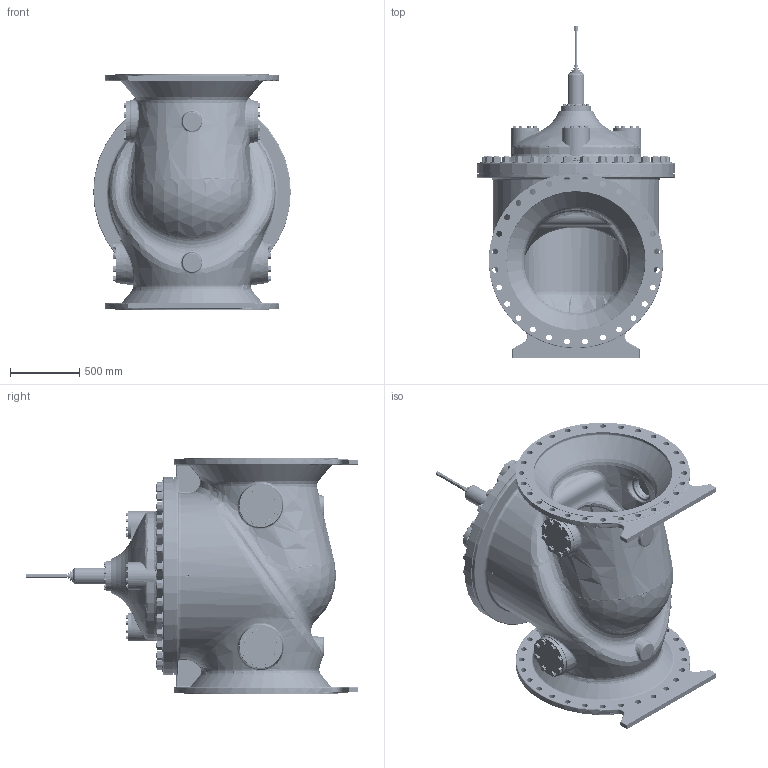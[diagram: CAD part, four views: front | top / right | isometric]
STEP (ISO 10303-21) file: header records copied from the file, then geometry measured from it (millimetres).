
FILE_DESCRIPTION(/* description */ (''),/* implementation_level */ '2;1');
FILE_NAME(/* name */ 'G:\Doc_Liberes\SymbolesCAD\Modeles_3D\FichierSTP\VanneDeBase\TytanM1000-16RF.stp',/* time_stamp */ '2023-08-17T15:40:51+02:00',/* author */ ('marc'),/* organization */ (''),/* preprocessor_version */ 'ST-DEVELOPER v18.1',/* originating_system */ 'Autodesk Inventor 2022',/* authorisation */ '');
FILE_SCHEMA (('AUTOMOTIVE_DESIGN { 1 0 10303 214 3 1 1 }'));
Products named in the file (1): TytanM1000-16_Simplifier_1
Bounding box: 1422.4 x 2388.37 x 1700.02 mm (x, y, z)
Volume: 409492407.1 mm3; surface area: 22836148.7 mm2
Topology: 1 solids, 1 shells, 4962 faces, 12595 edges, 7943 vertices
Faces by surface type: cone 2197, plane 1771, cylinder 491, bspline 314, torus 167, sphere 22
Full cylindrical faces by diameter (mm): 19 x1, 19.05 x10, 20.64 x1, 22.49 x32, 24 x10, 26.924 x4, 30 x32, 32.2 x1, 33.61 x32, 36 x1, 38.1 x64, 39.688 x32, 43 x56, 44 x32, 59.614 x1, 88.9 x33, 107.95 x1, 120.65 x1, 146.05 x1, 152.4 x4, 158.75 x4, 200 x4, 215.9 x1, 300 x4, 800.1 x1, 863.6 x2, 1000.76 x2, 1112 x2, 1255 x2, 1390.65 x1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
Entity records: 217464 total; most frequent: CARTESIAN_POINT 102938, ORIENTED_EDGE 25000, DIRECTION 24298, EDGE_CURVE 12500, AXIS2_PLACEMENT_3D 11151, VERTEX_POINT 7943, CIRCLE 6477, EDGE_LOOP 5551
